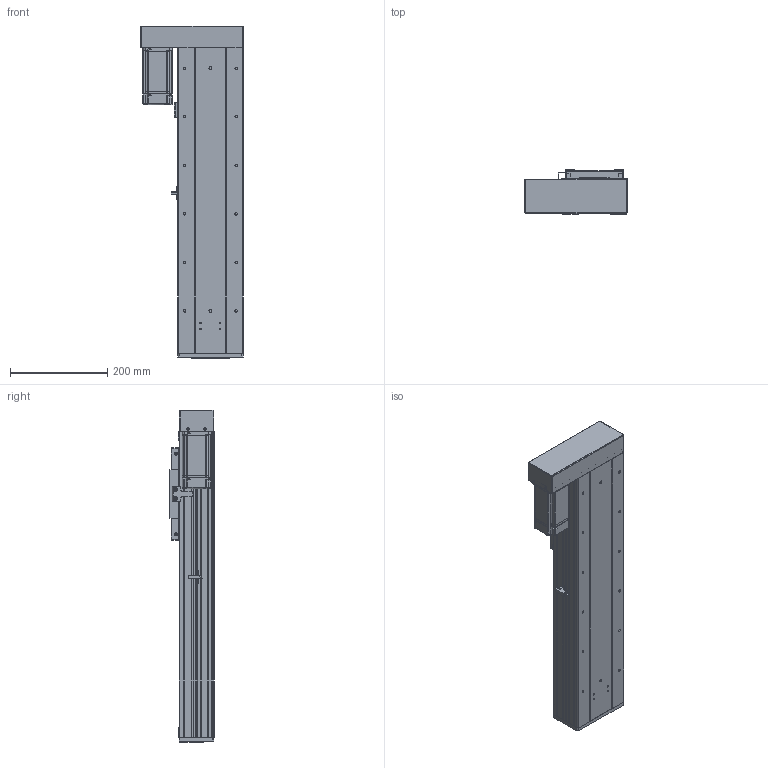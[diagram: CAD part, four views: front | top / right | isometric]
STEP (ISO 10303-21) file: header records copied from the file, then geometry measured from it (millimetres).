
FILE_DESCRIPTION (( 'STEP AP203' ), '1' );
FILE_NAME ('RY140F-L2020-300-LK.SLDASM_350.step', '2021-03-02T08:36:58', ( '盈信电脑' ), ( '东莞市道滘镇水果街19号' ), 'SwSTEP 2.0', 'SolidWorks 2012', '' );
FILE_SCHEMA (( 'CONFIG_CONTROL_DESIGN' ));
Length unit declared in the file: millimetre
Products named in the file (19): RY140F-后盖板(铝件）; RY140F-直连型材铝滑块(16丝杆); RY100F-詩湍揤踡謫; RY140F-滅鳥奻裔; RY140F-直连型材铝滑块连接座; RY140F-300-LK蛌殏詩湍_350; RY140F-詩湍幗謫粣; RY140F-300-LK倰第菁釱_350; RY140F-300-LK倰第奻裔啣_350; 15; RY140F-酘衵殏萇儂欶(400W); RY140F-左右折电机安装板(400W M5); RY140F-L2020-300-LK.SLDASM_350; RY140F-转折折电机座（7001）; RY140F-672覜茼んえ; 侐源滅袉蝶; RY140F-詩湍揤え; 覜茼ん672; 侂狟400W侜督萇儂
Assembly tree (23 placements, depth 3):
  RY140F-L2020-300-LK.SLDASM_350
    RY140F-300-LK倰第菁釱_350
    RY140F-300-LK倰第奻裔啣_350  x2
    RY140F-300-LK蛌殏詩湍_350
    RY140F-直连型材铝滑块连接座
    RY140F-滅鳥奻裔
    RY140F-詩湍幗謫粣
    RY100F-詩湍揤踡謫
    RY140F-直连型材铝滑块(16丝杆)
    RY140F-后盖板(铝件）
    侂狟400W侜督萇儂
      15
    覜茼ん672
    RY140F-672覜茼んえ
    RY140F-詩湍揤え  x2
    侐源滅袉蝶  x4
    RY140F-转折折电机座（7001）
    RY140F-左右折电机安装板(400W M5)
    RY140F-酘衵殏萇儂欶(400W)
Bounding box: 211 x 91 x 684 mm (x, y, z)
Volume: 3058519.3 mm3; surface area: 1080955.4 mm2
Topology: 22 solids, 22 shells, 1989 faces, 5429 edges, 3454 vertices
Faces by surface type: cylinder 960, plane 789, cone 210, bspline 26, torus 4
Entity records: 62907 total; most frequent: CARTESIAN_POINT 13367, DIRECTION 10038, ORIENTED_EDGE 9778, EDGE_CURVE 4889, AXIS2_PLACEMENT_3D 3589, VERTEX_POINT 3194, VECTOR 2860, LINE 2860
